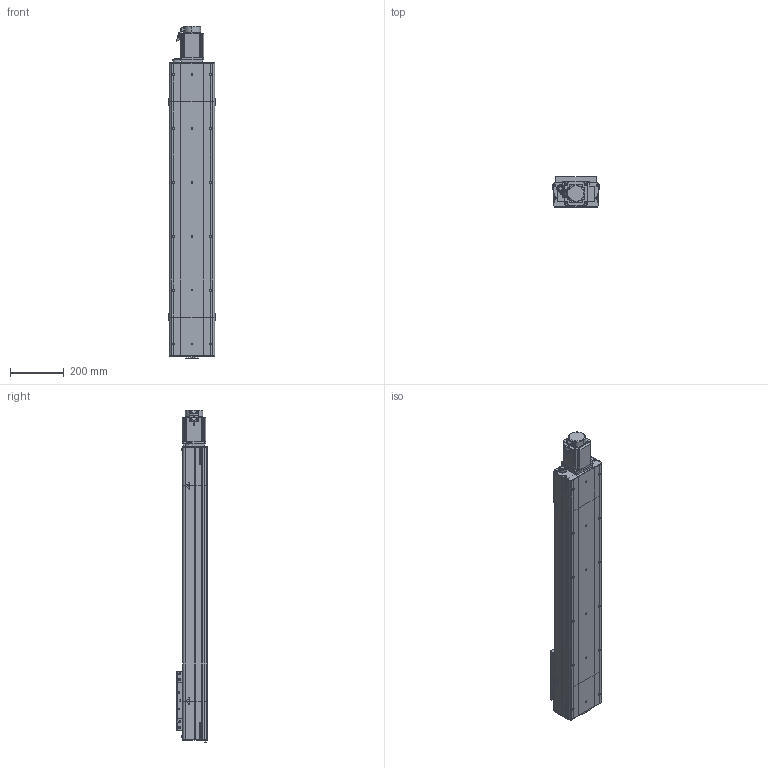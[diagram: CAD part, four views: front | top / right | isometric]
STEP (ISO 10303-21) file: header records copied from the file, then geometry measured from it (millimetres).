
FILE_DESCRIPTION (( 'STEP AP214' ), '1' );
FILE_NAME ('D17 CSH MD S800.STEP', '2010-06-29T14:16:49', ( 'Christophe Gaillard' ), ( 'SGA' ), 'SwSTEP 2.0', 'SolidWorks 2010', '' );
FILE_SCHEMA (( 'AUTOMOTIVE_DESIGN' ));
Length unit declared in the file: millimetre
Products named in the file (25): Head D17 MD_Default; couvercle D17 head_Default; Corp Head D17 MD_Default; D17 CSH MD S800; plaque de serrage D17_Default; Tail D17_Default; Conecteur2_Default; couvercle D17-800_Default; couvercle D17_Default; Plaque de bout D17 head_Default; Conecteur_Default; Corp Tail D17_Default; codeur 90BLDC100-640; corps 90BLDC100A-640; Corp D17 S800_Default; avant 90BLDC100A-640; Plaque de bout D17_Default; Corp L800_Default; Moteur motionking 90BLDC100A-640; plaque de serrage D17 head_Default; chariot D17_Default; vis M5 L15_Default; support chariot D17_Default; glissiere_Default; Chariot D17_Default
Assembly tree (44 placements, depth 4):
  D17 CSH MD S800
    Corp D17 S800_Default
      Corp L800_Default
      couvercle D17-800_Default
    Tail D17_Default
      vis M5 L15_Default  x6
      Plaque de bout D17_Default
      Corp Tail D17_Default
      plaque de serrage D17_Default
      couvercle D17_Default
    Chariot D17_Default
      vis M5 L15_Default  x8
      chariot D17_Default
      support chariot D17_Default
      glissiere_Default
    Head D17 MD_Default
      vis M5 L15_Default  x7
      Corp Head D17 MD_Default
      Plaque de bout D17 head_Default
      Moteur motionking 90BLDC100A-640
        corps 90BLDC100A-640
        avant 90BLDC100A-640
        codeur 90BLDC100-640
        Conecteur_Default
        Conecteur2_Default
      plaque de serrage D17 head_Default
      couvercle D17 head_Default
Bounding box: 172 x 114 x 1233 mm (x, y, z)
Volume: 8058707.6 mm3; surface area: 1436379.1 mm2
Topology: 81 solids, 81 shells, 2972 faces, 7538 edges, 4944 vertices
Faces by surface type: plane 1801, bspline 710, cylinder 366, torus 53, cone 42
Entity records: 143585 total; most frequent: CARTESIAN_POINT 78372, ORIENTED_EDGE 13072, DIRECTION 9296, EDGE_CURVE 6536, VECTOR 4456, LINE 4456, VERTEX_POINT 4344, EDGE_LOOP 2752
